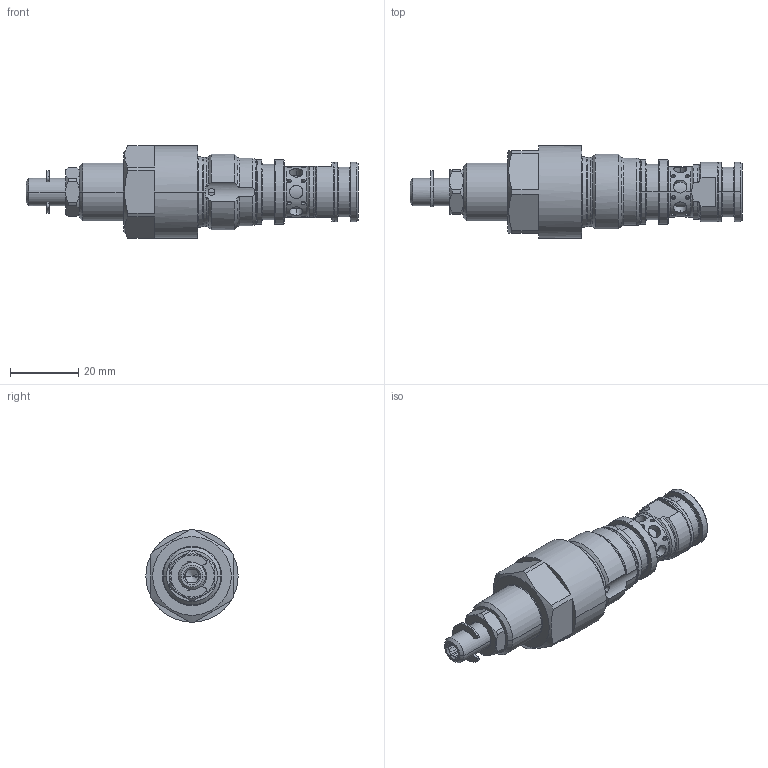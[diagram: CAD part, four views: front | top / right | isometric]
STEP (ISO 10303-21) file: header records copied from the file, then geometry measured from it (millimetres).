
FILE_DESCRIPTION (( 'STEP AP214' ), '1' );
FILE_NAME ('UISPU10.STEP', '2025-05-16T11:01:01', ( '' ), ( '' ), 'SwSTEP 2.0', 'SolidWorks 2024', '' );
FILE_SCHEMA (( 'AUTOMOTIVE_DESIGN' ));
Length unit declared in the file: millimetre
Products named in the file (1): UISPU10
Bounding box: 97.14 x 27 x 27 mm (x, y, z)
Volume: 26681.6 mm3; surface area: 7944.3 mm2
Topology: 1 solids, 1 shells, 315 faces, 730 edges, 445 vertices
Faces by surface type: cylinder 147, cone 84, plane 58, torus 26
Entity records: 10308 total; most frequent: CARTESIAN_POINT 3238, DIRECTION 1483, ORIENTED_EDGE 1456, EDGE_CURVE 728, AXIS2_PLACEMENT_3D 608, VERTEX_POINT 445, EDGE_LOOP 349, ADVANCED_FACE 315
